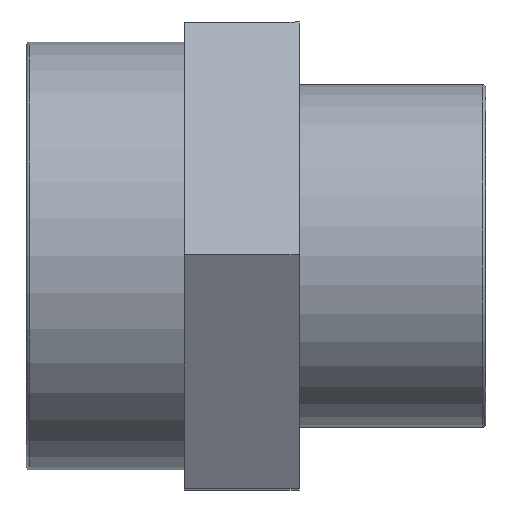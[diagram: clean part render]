
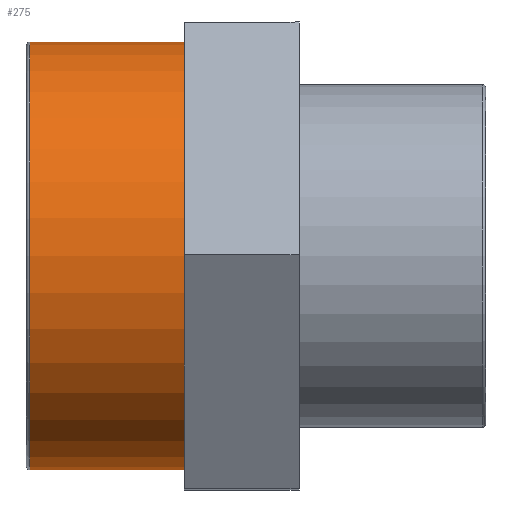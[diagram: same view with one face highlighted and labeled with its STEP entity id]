
A CAD part, top view. The second image highlights one B-rep face of the part: STEP entity #275.
In plain terms, the highlighted cylindrical face has radius 29.807 mm (diameter 59.614 mm), a full revolution.
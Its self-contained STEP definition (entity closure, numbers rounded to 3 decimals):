
#18=CYLINDRICAL_SURFACE('',#307,29.807);
#28=FACE_BOUND('',#92,.T.);
#42=CIRCLE('',#306,29.807);
#43=CIRCLE('',#308,29.807);
#63=FACE_OUTER_BOUND('',#91,.T.);
#91=EDGE_LOOP('',(#231));
#92=EDGE_LOOP('',(#232));
#157=VERTEX_POINT('',#460);
#158=VERTEX_POINT('',#463);
#187=EDGE_CURVE('',#157,#157,#42,.T.);
#188=EDGE_CURVE('',#158,#158,#43,.T.);
#231=ORIENTED_EDGE('',*,*,#188,.T.);
#232=ORIENTED_EDGE('',*,*,#187,.F.);
#275=ADVANCED_FACE('',(#63,#28),#18,.T.);
#306=AXIS2_PLACEMENT_3D('',#461,#382,#383);
#307=AXIS2_PLACEMENT_3D('',#462,#384,#385);
#308=AXIS2_PLACEMENT_3D('',#464,#386,#387);
#382=DIRECTION('center_axis',(-1.,0.,0.));
#383=DIRECTION('ref_axis',(0.,1.,0.));
#384=DIRECTION('center_axis',(-1.,0.,0.));
#385=DIRECTION('ref_axis',(0.,-1.,0.));
#386=DIRECTION('center_axis',(-1.,0.,0.));
#387=DIRECTION('ref_axis',(0.,0.,1.));
#460=CARTESIAN_POINT('',(-31.522,-29.807,0.));
#461=CARTESIAN_POINT('Origin',(-31.522,0.,0.));
#462=CARTESIAN_POINT('Origin',(-21.,0.,0.));
#463=CARTESIAN_POINT('',(-10.,-29.807,0.));
#464=CARTESIAN_POINT('Origin',(-10.,0.,0.));
